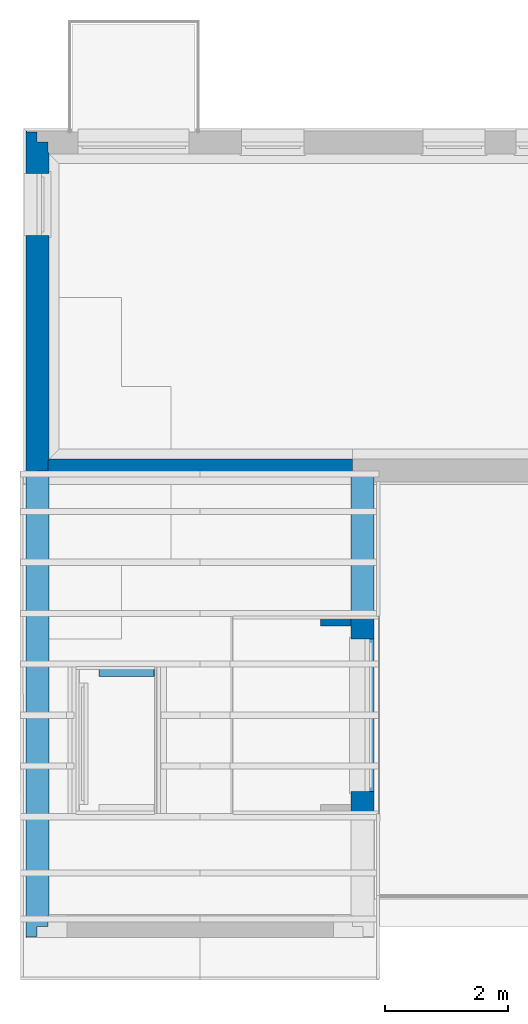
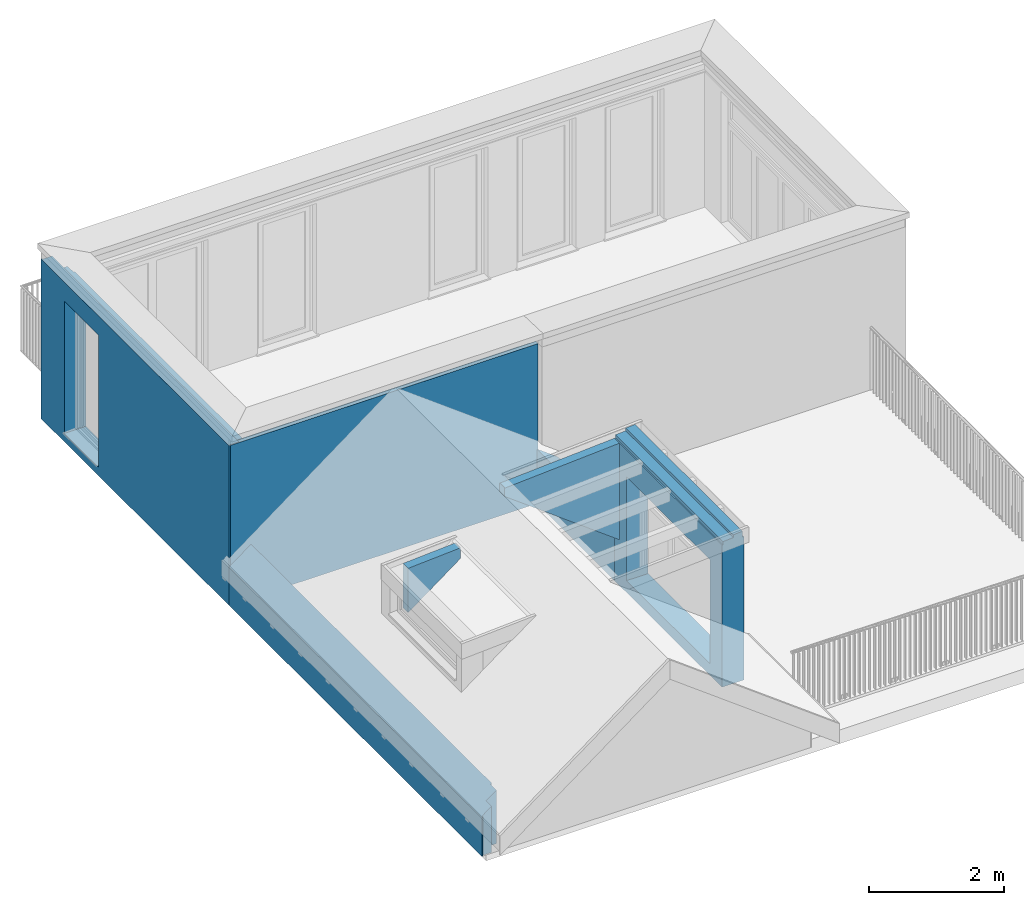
# One storey, part 8 of 15: 7 walls.
"""IFC4 building model written with IfcOpenShell, lengths in metres."""

from ifc_helpers import new_model, entity, si_unit, converted_unit, derived_unit, direction, frame, origin_with_axes, place, context, subcontext, project, spatial, triangles, material, constituent, constituent_set, type_object, element, save


model = new_model("IFC4")

# Units and contexts
model_context = context("Model", 3, precision=1e-05, world=origin_with_axes(), true_north=direction((-0.526213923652, 0.850352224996)))
body_context = subcontext(model_context, "Body", "Model", "MODEL_VIEW")
ifc_project = project(units=[si_unit("LENGTHUNIT", "METRE"), si_unit("AREAUNIT", "SQUARE_METRE"), si_unit("VOLUMEUNIT", "CUBIC_METRE"), converted_unit("PLANEANGLEUNIT", "DEGREE", entity("IfcPlaneAngleMeasure", 0.0174532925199), si_unit("PLANEANGLEUNIT", "RADIAN"), dimensions=[0, 0, 0, 0, 0, 0, 0]), si_unit("SOLIDANGLEUNIT", "STERADIAN"), converted_unit("TIMEUNIT", "Year", entity("IfcTimeMeasure", 31556926.0), si_unit("TIMEUNIT", "SECOND"), dimensions=[0, 0, 1, 0, 0, 0, 0]), si_unit("MASSUNIT", "GRAM", prefix="KILO"), si_unit("THERMODYNAMICTEMPERATUREUNIT", "DEGREE_CELSIUS"), si_unit("LUMINOUSINTENSITYUNIT", "LUMEN"), si_unit("ENERGYUNIT", "JOULE", prefix="MEGA"), derived_unit("THERMALCONDUCTANCEUNIT", [(si_unit("POWERUNIT", "WATT"), 1), (si_unit("LENGTHUNIT", "METRE"), -1), (si_unit("THERMODYNAMICTEMPERATUREUNIT", "KELVIN"), -1)]), derived_unit("SPECIFICHEATCAPACITYUNIT", [(si_unit("ENERGYUNIT", "JOULE"), 1), (si_unit("MASSUNIT", "GRAM", prefix="KILO"), -1), (si_unit("THERMODYNAMICTEMPERATUREUNIT", "KELVIN"), -1)]), derived_unit("MASSDENSITYUNIT", [(si_unit("MASSUNIT", "GRAM", prefix="KILO"), 1), (si_unit("VOLUMEUNIT", "CUBIC_METRE"), -1)])], contexts=[model_context])

# Site, building, storey, space
site_placement = place(None, origin_with_axes())
site = spatial("IfcSite", under=ifc_project, at=site_placement, Name="Gelände", CompositionType="ELEMENT")
building_placement = place(site_placement, origin_with_axes())
building = spatial("IfcBuilding", under=site, at=building_placement, Name="Haus vom Nikolaus", CompositionType="ELEMENT")
storey_placement = place(building_placement, frame((0.0, 0.0, 3.75), z_axis=(0.0, 0.0, 1.0), x_axis=(1.0, 0.0, 0.0)))
storey = spatial("IfcBuildingStorey", under=building, at=storey_placement, Name="1. OG", CompositionType="ELEMENT", Elevation=3.75)
space_placement = place(storey_placement, frame((-0.115002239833, 5.36483188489, 0.0), z_axis=(0.0, 0.0, 1.0), x_axis=(-1.0, 0.0, 0.0)))
space = spatial("IfcSpace", under=storey, at=space_placement, Name="OG", CompositionType="ELEMENT")

# Walls
ifc_material_1 = material(Name="Verputz, Zement")
ifc_constituent_1 = constituent(ifc_material_1, Name="Component 1")
ifc_material_2 = material(Name="Dämmung, weich Mineralwolle 2")
ifc_constituent_2 = constituent(ifc_material_2, Name="Component 2")
ifc_material_3 = material(Name="MW Kalksandstein")
ifc_constituent_3 = constituent(ifc_material_3, Name="Component 3")
ifc_constituent_4 = constituent(ifc_material_1, Name="Component 4")
ifc_constituent_set_1 = constituent_set(constituents=[ifc_constituent_1, ifc_constituent_2, ifc_constituent_3, ifc_constituent_4], Name="WA | 2 Schichtig KS")
wall_type_1 = type_object("IfcWallType", Name="WA | 2 Schichtig KS 375", PredefinedType="NOTDEFINED")
wall_1_placement = place(space_placement, frame((-0.3749998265, -2.29500077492, 0.0), z_axis=(0.0, 0.0, 1.0), x_axis=(0.0, -1.0, 0.0)))
element("IfcWall", 1, at=wall_1_placement, inside=space, type_object=wall_type_1, material=ifc_constituent_set_1, Name="Wand-008", context=body_context, shape_type="Tessellation", body=[
    triangles([(5.33500009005, 0.375, 0.0), (-0.264999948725, 0.375, 0.0), (3.63000009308, 0.375, 0.15), (4.64000009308, 0.375, 2.55), (5.33500009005, 0.375, 2.90000000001), (-0.264999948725, 0.375, 2.90000000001), (3.63000009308, 0.375, 2.55), (4.64000009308, 0.375, 0.15), (-0.264999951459, 0.355, 0.0), (-0.264999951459, 0.355, 2.90000000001), (5.33500008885, 0.355, 2.90000000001), (5.33500008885, 0.355, 0.0), (3.63000009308, 0.355, 0.15), (4.64000009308, 0.355, 0.15), (4.64000009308, 0.355, 2.55), (3.63000009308, 0.355, 2.55)], [[1, 2, 3], [1, 4, 5], [6, 5, 7], [7, 2, 6], [4, 1, 8], [3, 8, 1], [7, 5, 4], [2, 7, 3], [9, 6, 2], [9, 10, 6], [11, 6, 10], [11, 5, 6], [5, 12, 1], [5, 11, 12], [12, 2, 1], [2, 12, 9], [8, 13, 14], [8, 3, 13], [4, 14, 15], [4, 8, 14], [7, 15, 16], [7, 4, 15], [3, 16, 13], [3, 7, 16], [11, 10, 16], [9, 12, 13], [16, 9, 13], [9, 16, 10], [15, 12, 11], [16, 15, 11], [14, 13, 12], [15, 14, 12]], closed=True),
    triangles([(5.31500008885, 0.355, 0.0), (-0.244999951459, 0.355, 0.0), (3.63000009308, 0.355, 0.15), (4.64000009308, 0.355, 2.55), (5.31500008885, 0.355, 2.90000000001), (-0.244999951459, 0.355, 2.90000000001), (3.63000009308, 0.355, 2.55), (4.64000009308, 0.355, 0.15), (-0.244999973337, 0.195, 0.0), (-0.244999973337, 0.195, 2.90000000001), (5.31500007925, 0.195, 2.90000000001), (5.31500007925, 0.195, 0.0), (3.63000009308, 0.195, 0.15), (4.64000009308, 0.195, 0.15), (4.64000009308, 0.195, 2.55), (3.63000009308, 0.195, 2.55)], [[1, 2, 3], [1, 4, 5], [6, 5, 7], [7, 2, 6], [4, 1, 8], [3, 8, 1], [7, 5, 4], [2, 7, 3], [9, 6, 2], [9, 10, 6], [11, 6, 10], [11, 5, 6], [5, 12, 1], [5, 11, 12], [12, 2, 1], [2, 12, 9], [8, 13, 14], [8, 3, 13], [4, 14, 15], [4, 8, 14], [7, 15, 16], [7, 4, 15], [3, 16, 13], [3, 7, 16], [11, 10, 16], [9, 12, 13], [16, 9, 13], [9, 16, 10], [15, 12, 11], [16, 15, 11], [14, 13, 12], [15, 14, 12]], closed=True),
    triangles([(-0.195000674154, 0.195, 2.75), (5.1549993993, 0.195, 2.75), (3.63000009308, 0.195, 2.55), (-0.194999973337, 0.195, 0.0), (5.15500007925, 0.195, 0.0), (3.63000009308, 0.195, 0.15), (4.64000009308, 0.195, 2.55), (4.64000009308, 0.195, 0.15), (5.15500006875, 0.02, 0.0), (5.1549993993, 0.02, 2.75), (-0.194999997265, 0.02, 0.0), (-0.195000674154, 0.02, 2.75), (3.63000009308, 0.02, 0.15), (4.64000009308, 0.02, 0.15), (4.64000009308, 0.02, 2.55), (3.63000009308, 0.02, 2.55)], [[1, 2, 3], [3, 4, 1], [5, 4, 6], [5, 7, 2], [8, 5, 6], [7, 5, 8], [3, 2, 7], [4, 3, 6], [2, 9, 5], [9, 2, 10], [4, 9, 11], [4, 5, 9], [11, 1, 4], [11, 12, 1], [1, 10, 2], [1, 12, 10], [8, 13, 14], [8, 6, 13], [7, 14, 15], [7, 8, 14], [7, 16, 3], [16, 7, 15], [6, 16, 13], [6, 3, 16], [10, 12, 16], [11, 9, 13], [16, 11, 13], [11, 16, 12], [15, 9, 10], [16, 15, 10], [14, 13, 9], [15, 14, 9]], closed=True),
    triangles([(3.63000009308, 0.02, 2.55), (4.97999947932, 0.02, 2.59999998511), (4.64000009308, 0.02, 2.55), (-0.0200005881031, 0.02, 2.59999998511), (3.63000009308, 0.02, 0.15), (-0.0199999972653, 0.02, 0.0), (4.98000006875, 0.02, 0.0), (4.64000009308, 0.02, 0.15), (4.98000006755, 0.0, 0.0), (4.97999947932, 0.0, 2.59999998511), (-0.02, 0.0, 0.0), (-0.0200005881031, 0.0, 2.59999998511), (3.63000009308, 0.0, 0.15), (4.64000009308, 0.0, 0.15), (4.64000009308, 0.0, 2.55), (3.63000009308, 0.0, 2.55)], [[1, 2, 3], [4, 5, 6], [7, 6, 5], [8, 3, 2], [8, 7, 5], [7, 8, 2], [4, 2, 1], [4, 1, 5], [2, 9, 7], [9, 2, 10], [6, 9, 11], [6, 7, 9], [11, 4, 6], [11, 12, 4], [4, 10, 2], [4, 12, 10], [8, 13, 14], [8, 5, 13], [3, 14, 15], [3, 8, 14], [1, 15, 16], [1, 3, 15], [5, 16, 13], [5, 1, 16], [10, 12, 16], [14, 10, 15], [11, 9, 13], [13, 12, 11], [13, 16, 12], [16, 15, 10], [14, 13, 9], [10, 14, 9]], closed=True),
    triangles([(-0.02, 0.0, 2.75), (4.97999947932, 0.0, 2.64999998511), (4.98000006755, 0.0, 2.75), (-0.0200005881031, 0.0, 2.64999998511), (4.97999947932, 0.02, 2.64999998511), (-0.0200005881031, 0.02, 2.64999998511), (4.98000006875, 0.02, 2.75), (-0.0199999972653, 0.02, 2.75)], [[1, 2, 3], [2, 1, 4], [4, 5, 2], [4, 6, 5], [3, 5, 7], [5, 3, 2], [8, 3, 7], [3, 8, 1], [1, 6, 4], [1, 8, 6], [8, 5, 6], [8, 7, 5]], closed=True),
])
ifc_constituent_5 = constituent(ifc_material_1, Name="Component 1")
ifc_constituent_6 = constituent(ifc_material_3, Name="Component 2")
ifc_constituent_7 = constituent(ifc_material_2, Name="Component 3")
ifc_constituent_8 = constituent(ifc_material_1, Name="Component 4")
ifc_constituent_set_2 = constituent_set(constituents=[ifc_constituent_5, ifc_constituent_6, ifc_constituent_7, ifc_constituent_8], Name="WA | 2 Schichtig KS")
wall_2_placement = place(space_placement, frame((-5.28538429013, 3.46714901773, 0.0), z_axis=(0.0, 0.0, 1.0), x_axis=(2.86144443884e-10, -1.0, 0.0)))
element("IfcWall", 2, at=wall_2_placement, inside=space, type_object=wall_type_1, material=ifc_constituent_set_2, Name="Wand-012", context=body_context, shape_type="Tessellation", body=[
    triangles([(0.35851869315, -9.34946342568e-10, 2.09796168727), (0.35851869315, -9.34946342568e-10, 0.211961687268), (-2.7046910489e-08, -8.05472666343e-09, 1.14763102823), (2.84151869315, -1.64544378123e-09, 2.09796168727), (3.19999997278, -9.15662212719e-10, 2.58057629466), (3.19999997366, -9.15662212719e-10, 2.09796168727), (2.84151869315, -1.64544378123e-09, 0.211961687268), (3.19999997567, -9.15662212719e-10, 0.0), (1.07304387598e-10, -8.05472666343e-09, 0.0), (-2.73609883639e-08, -8.32358182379e-10, 2.58057629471), (3.19999997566, -0.0200000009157, 0.0), (1.0158140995e-10, -0.0199999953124, 0.0), (-2.70526334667e-08, -0.0199999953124, 1.14763102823), (-2.73700015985e-08, -0.0199999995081, 2.58186262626), (3.19999997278, -0.0200000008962, 2.58186262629), (3.19999997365, -0.0200000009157, 2.09796168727), (0.358518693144, -0.0200000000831, 0.211961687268), (2.84151869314, -0.0200000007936, 0.211961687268), (2.84151869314, -0.0200000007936, 2.09796168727), (0.358518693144, -0.0200000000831, 2.09796168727)], [[1, 2, 3], [4, 5, 6], [7, 4, 6], [2, 8, 9], [3, 2, 9], [7, 6, 8], [2, 7, 8], [1, 5, 4], [1, 3, 10], [5, 1, 10], [11, 9, 8], [11, 12, 9], [12, 3, 9], [12, 13, 3], [13, 10, 3], [13, 14, 10], [10, 15, 5], [10, 14, 15], [5, 16, 6], [16, 5, 15], [8, 16, 11], [8, 6, 16], [7, 17, 18], [7, 2, 17], [4, 18, 19], [4, 7, 18], [4, 20, 1], [20, 4, 19], [2, 20, 17], [2, 1, 20], [17, 13, 12], [20, 15, 14], [17, 20, 13], [17, 12, 11], [18, 16, 19], [13, 20, 14], [19, 16, 15], [20, 19, 15], [18, 17, 11], [16, 18, 11]], closed=True),
    triangles([(0.358518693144, -0.0199999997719, 2.09796168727), (0.358518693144, -0.0199999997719, 0.211961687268), (-2.70526334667e-08, -0.0199999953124, 1.14763102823), (2.84151869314, -0.0200000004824, 2.09796168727), (3.19999997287, -0.0200000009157, 2.63697626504), (3.19999997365, -0.0200000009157, 2.09796168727), (2.84151869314, -0.0200000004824, 0.211961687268), (3.19999997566, -0.0200000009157, 0.0), (1.0158140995e-10, -0.0199999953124, 0.0), (-2.72598663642e-08, -0.0199999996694, 2.63697626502), (0.0, -0.194999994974, 0.0), (3.19999997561, -0.195000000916, 0.0), (-2.7102708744e-08, -0.194999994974, 1.14763102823), (-2.73084057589e-08, -0.194999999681, 2.64823166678), (3.19999997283, -0.195000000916, 2.6482316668), (3.1999999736, -0.195000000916, 2.09796168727), (0.358518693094, -0.195000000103, 0.211961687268), (2.84151869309, -0.195000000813, 0.211961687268), (2.84151869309, -0.195000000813, 2.09796168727), (0.358518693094, -0.195000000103, 2.09796168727)], [[1, 2, 3], [4, 5, 6], [7, 4, 6], [2, 8, 9], [3, 2, 9], [7, 6, 8], [2, 7, 8], [1, 5, 4], [1, 3, 10], [5, 1, 10], [11, 8, 12], [8, 11, 9], [11, 3, 9], [11, 13, 3], [13, 10, 3], [13, 14, 10], [14, 5, 10], [5, 14, 15], [5, 16, 6], [16, 5, 15], [8, 16, 12], [8, 6, 16], [7, 17, 18], [7, 2, 17], [4, 18, 19], [4, 7, 18], [1, 19, 20], [1, 4, 19], [2, 20, 17], [2, 1, 20], [17, 13, 11], [20, 15, 14], [17, 20, 13], [17, 11, 12], [18, 16, 19], [13, 20, 14], [19, 16, 15], [20, 19, 15], [18, 17, 12], [16, 18, 12]], closed=True),
    triangles([(2.84151869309, -0.195000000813, 0.211961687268), (2.84151869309, -0.195000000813, 2.09796168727), (3.1999999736, -0.195000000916, 2.09796168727), (3.19999997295, -0.195000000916, 2.69833497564), (0.358518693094, -0.195000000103, 2.09796168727), (0.358518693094, -0.195000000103, 0.211961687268), (-2.7102708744e-08, -0.194999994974, 1.14763102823), (3.19999997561, -0.195000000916, 0.0), (0.0, -0.194999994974, 0.0), (-2.7141298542e-08, -0.194999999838, 2.69833497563), (-2.71844007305e-08, -0.354999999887, 2.70862562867), (3.19999997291, -0.355000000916, 2.70862562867), (3.19999997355, -0.355000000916, 2.09796168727), (3.19999997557, -0.355000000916, 0.0), (0.0, -0.354999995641, 0.0), (-2.7148491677e-08, -0.354999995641, 1.14763102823), (0.358518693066, -0.295000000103, 0.211961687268), (2.84151869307, -0.295000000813, 0.211961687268), (2.84151869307, -0.295000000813, 2.09796168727), (0.358518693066, -0.295000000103, 2.09796168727), (0.358518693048, -0.355000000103, 2.09796168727), (0.358518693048, -0.355000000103, 0.211961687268), (2.84151869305, -0.355000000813, 0.211961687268), (2.84151869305, -0.355000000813, 2.09796168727)], [[1, 2, 3], [2, 4, 3], [5, 6, 7], [6, 8, 9], [7, 6, 9], [1, 3, 8], [6, 1, 8], [5, 4, 2], [5, 7, 10], [4, 5, 10], [11, 4, 10], [11, 12, 4], [4, 13, 3], [4, 12, 13], [3, 14, 8], [3, 13, 14], [15, 8, 14], [15, 9, 8], [16, 9, 15], [16, 7, 9], [10, 16, 11], [16, 10, 7], [1, 17, 18], [1, 6, 17], [2, 18, 19], [2, 1, 18], [2, 20, 5], [20, 2, 19], [6, 20, 17], [6, 5, 20], [21, 12, 11], [22, 14, 23], [22, 21, 16], [23, 13, 24], [21, 11, 16], [24, 13, 12], [21, 24, 12], [13, 23, 14], [22, 16, 15], [14, 22, 15], [23, 17, 22], [17, 23, 18], [23, 19, 18], [23, 24, 19], [24, 20, 19], [24, 21, 20], [21, 17, 20], [21, 22, 17]], closed=True),
    triangles([(0.358518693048, -0.354999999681, 2.09796168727), (0.358518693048, -0.354999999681, 0.211961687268), (-2.7148491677e-08, -0.354999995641, 1.14763102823), (2.84151869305, -0.355000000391, 2.09796168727), (3.19999997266, -0.355000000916, 2.60340868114), (3.19999997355, -0.355000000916, 2.09796168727), (2.84151869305, -0.355000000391, 0.211961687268), (3.19999997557, -0.355000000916, 0.0), (0.0, -0.354999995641, 0.0), (-2.75209697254e-08, -0.354999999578, 2.60340868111), (0.0, -0.375, 0.0), (3.19999997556, -0.375000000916, 0.0), (-2.71542146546e-08, -0.375, 1.14763102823), (-2.752998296e-08, -0.375, 2.60469501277), (3.19999997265, -0.375000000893, 2.60469501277), (3.19999997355, -0.375000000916, 2.09796168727), (2.84151869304, -0.37500000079, 0.211961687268), (0.358518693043, -0.37500000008, 0.211961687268), (2.84151869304, -0.37500000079, 2.09796168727), (0.358518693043, -0.37500000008, 2.09796168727)], [[1, 2, 3], [4, 5, 6], [7, 4, 6], [2, 8, 9], [3, 2, 9], [7, 6, 8], [2, 7, 8], [1, 5, 4], [1, 3, 10], [5, 1, 10], [11, 8, 12], [8, 11, 9], [11, 3, 9], [11, 13, 3], [13, 10, 3], [13, 14, 10], [10, 15, 5], [10, 14, 15], [5, 16, 6], [16, 5, 15], [8, 16, 12], [8, 6, 16], [2, 17, 7], [17, 2, 18], [4, 17, 19], [4, 7, 17], [1, 19, 20], [1, 4, 19], [2, 20, 18], [2, 1, 20], [18, 13, 11], [20, 15, 14], [18, 20, 13], [18, 11, 12], [17, 16, 19], [13, 20, 14], [19, 16, 15], [20, 19, 15], [17, 18, 12], [16, 17, 12]], closed=True),
])
ifc_constituent_9 = constituent(ifc_material_1, Name="Component 1")
ifc_constituent_10 = constituent(ifc_material_2, Name="Component 2")
ifc_constituent_11 = constituent(ifc_material_3, Name="Component 3")
ifc_constituent_12 = constituent(ifc_material_1, Name="Component 4")
ifc_constituent_set_3 = constituent_set(constituents=[ifc_constituent_9, ifc_constituent_10, ifc_constituent_11, ifc_constituent_12], Name="WA | 2 Schichtig KS")
wall_3_placement = place(space_placement, frame((-0.374999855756, 5.10499976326, -7.13958347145e-05), z_axis=(0.0, 0.0, 1.0), x_axis=(5.17545230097e-05, -0.999999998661, 0.0)))
element("IfcWall", 3, at=wall_3_placement, inside=space, type_object=wall_type_1, material=ifc_constituent_set_3, Name="Wand-012", context=body_context, shape_type="Tessellation", body=[
    triangles([(7.13502006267, 0.355, 0.0), (-0.374980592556, 0.375, 7.45491224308e-10), (7.13502006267, 0.375, 0.0), (-0.374981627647, 0.355, 7.14081238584e-10), (-0.374980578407, 0.374999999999, 7.13958347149e-05), (7.13502006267, 0.375, 0.703986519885), (-0.374980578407, 0.375, 0.704277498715), (7.13502006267, 0.355, 0.718959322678), (-0.374981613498, 0.354999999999, 7.13958347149e-05), (-0.374981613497, 0.355, 0.719250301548)], [[1, 2, 3], [1, 4, 2], [3, 5, 6], [6, 5, 7], [5, 3, 2], [1, 6, 8], [6, 1, 3], [9, 1, 8], [9, 8, 10], [1, 9, 4], [9, 2, 4], [2, 9, 5], [9, 7, 5], [9, 10, 7], [8, 7, 10], [8, 6, 7]], closed=True),
    triangles([(7.13502006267, 0.355, 0.718959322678), (-0.35498162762, 0.355, 7.13971194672e-05), (-0.354981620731, 0.355, 0.719249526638), (7.13502006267, 0.355, 0.0), (-0.35498162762, 0.355, 0.0), (-0.354989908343, 0.195, 0.0), (-0.354989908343, 0.195, 7.13971195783e-05), (-0.354989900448, 0.195, 0.839031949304), (7.13502006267, 0.195, 0.838741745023), (7.13502006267, 0.195, 0.0)], [[1, 2, 3], [4, 2, 1], [2, 4, 5], [6, 2, 5], [6, 7, 2], [7, 3, 2], [7, 8, 3], [9, 3, 8], [9, 1, 3], [10, 1, 9], [1, 10, 4], [10, 5, 4], [10, 6, 5], [10, 7, 6], [9, 7, 10], [7, 9, 8]], closed=True),
    triangles([(-0.194989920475, 0.194625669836, 7.13958347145e-05), (-0.194989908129, 0.195, 0.0), (-0.194989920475, 0.194625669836, 0.0), (-0.194998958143, 0.0199999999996, 7.13958347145e-05), (-0.194989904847, 0.195, 0.839025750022), (-0.194989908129, 0.195, 7.13971195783e-05), (-0.194998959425, 0.0199999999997, 0.970037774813), (4.48001001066, 0.194383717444, 7.13958347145e-05), (4.48001001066, 0.194383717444, 0.0), (4.48000098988, 0.0200000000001, 7.13958347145e-05), (7.13502006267, 0.02, 0.969753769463), (7.13502006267, 0.02, 0.0), (4.48000101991, 0.02, 0.0), (7.13502006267, 0.195, 0.838741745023), (7.13502006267, 0.195, 0.0)], [[1, 2, 3], [4, 5, 1], [2, 1, 6], [5, 4, 7], [5, 6, 1], [8, 3, 9], [8, 1, 3], [1, 10, 4], [1, 8, 10], [4, 10, 7], [11, 10, 12], [12, 10, 13], [7, 10, 11], [5, 11, 14], [11, 5, 7], [14, 6, 5], [6, 15, 2], [6, 14, 15], [15, 12, 9], [2, 15, 9], [2, 9, 3], [13, 9, 12], [8, 13, 10], [8, 9, 13], [14, 12, 15], [14, 11, 12]], closed=True),
    triangles([(-0.0199989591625, 0.0199999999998, 0.970030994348), (-0.0200000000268, 0.0, 7.13958347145e-05), (-0.0199999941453, 0.0, 0.985003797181), (-0.0199989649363, 0.02, 7.13958347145e-05), (4.47999995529, 0.0, 7.13958347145e-05), (4.48000098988, 0.0200000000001, 7.13958347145e-05), (4.47999998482, 0.0, 0.0), (6.97999995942, 0.0, 7.13958347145e-05), (6.97999995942, 0.0, 0.0), (7.13502006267, 0.0, 0.984726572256), (7.13502006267, 0.0, 7.13958347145e-05), (7.13502006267, 0.02, 0.969753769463), (7.13502006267, 0.02, 0.0), (4.48000101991, 0.02, 0.0), (6.98000097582, 0.0196388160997, 0.0), (7.13502006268, 0.0196307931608, 0.0), (6.98000097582, 0.0196388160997, 7.13958347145e-05), (7.13502006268, 0.0196307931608, 7.13958347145e-05)], [[1, 2, 3], [2, 1, 4], [4, 5, 2], [4, 6, 5], [2, 5, 3], [7, 8, 5], [8, 7, 9], [10, 8, 11], [10, 5, 8], [3, 5, 10], [1, 10, 12], [10, 1, 3], [13, 14, 6], [1, 12, 6], [1, 6, 4], [13, 6, 12], [6, 7, 5], [6, 14, 7], [15, 13, 16], [14, 13, 15], [15, 9, 7], [14, 15, 7], [17, 9, 15], [17, 8, 9], [18, 8, 17], [18, 11, 8], [16, 13, 18], [12, 11, 18], [12, 18, 13], [12, 10, 11], [15, 18, 17], [15, 16, 18]], closed=True),
])
ifc_constituent_13 = constituent(ifc_material_1, Name="Component 1")
ifc_constituent_14 = constituent(ifc_material_3, Name="Component 2")
ifc_constituent_15 = constituent(ifc_material_2, Name="Component 3")
ifc_constituent_16 = constituent(ifc_material_1, Name="Component 4")
ifc_constituent_set_4 = constituent_set(constituents=[ifc_constituent_13, ifc_constituent_14, ifc_constituent_15, ifc_constituent_16], Name="WA | 2 Schichtig KS")
wall_4_placement = place(space_placement, frame((-5.28538428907, 0.267149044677, 0.0), z_axis=(0.0, 0.0, 1.0), x_axis=(0.0, -1.0, 0.0)))
element("IfcWall", 4, at=wall_4_placement, inside=space, type_object=wall_type_1, material=ifc_constituent_set_4, Name="Wand-012", context=body_context, shape_type="Tessellation", body=[
    triangles([(2.61684629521e-09, -1.06460085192e-09, 0.0), (1.6857377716e-09, -0.0200000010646, 0.970264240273), (1.67136882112e-09, -1.06460085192e-09, 0.985237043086), (2.61684629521e-09, -0.0200000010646, 0.0), (2.29714914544, -0.02, 0.97026424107), (2.29714914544, -0.02, 0.0), (2.29714914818, 0.0, 0.985237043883), (2.29714914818, 0.0, 0.0)], [[1, 2, 3], [2, 1, 4], [5, 4, 6], [4, 5, 2], [5, 3, 2], [5, 7, 3], [7, 1, 3], [7, 8, 1], [6, 1, 8], [1, 6, 4], [8, 5, 6], [8, 7, 5]], closed=True),
    triangles([(2.61684629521e-09, -0.0200000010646, 0.0), (1.81146209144e-09, -0.195000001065, 0.839252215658), (1.6857377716e-09, -0.0200000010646, 0.970264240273), (2.61684540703e-09, -0.195000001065, 0.0), (2.31714912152, -0.195, 0.839252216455), (2.31714912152, -0.195, 0.0), (2.31714914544, -0.02, 0.97026424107), (2.31714914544, -0.02, 0.0)], [[1, 2, 3], [2, 1, 4], [5, 4, 6], [4, 5, 2], [5, 3, 2], [5, 7, 3], [7, 1, 3], [7, 8, 1], [6, 1, 8], [1, 6, 4], [8, 5, 6], [8, 7, 5]], closed=True),
    triangles([(2.61684540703e-09, -0.195000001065, 0.0), (1.92641014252e-09, -0.355000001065, 0.719469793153), (1.81146209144e-09, -0.195000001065, 0.839252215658), (2.61684540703e-09, -0.355000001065, 0.0), (2.31714909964, -0.355, 0.71946979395), (2.31714909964, -0.355, 0.0), (2.31714912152, -0.195, 0.839252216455), (2.31714912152, -0.195, 0.0)], [[1, 2, 3], [2, 1, 4], [5, 4, 6], [4, 5, 2], [5, 3, 2], [5, 7, 3], [7, 1, 3], [7, 8, 1], [6, 1, 8], [1, 6, 4], [8, 5, 6], [8, 7, 5]], closed=True),
    triangles([(2.61684540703e-09, -0.355000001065, 0.0), (1.94077909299e-09, -0.375000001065, 0.704496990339), (1.92641014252e-09, -0.355000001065, 0.719469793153), (2.61684540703e-09, -0.375000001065, 0.0), (2.2971490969, -0.375, 0.704496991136), (2.2971490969, -0.375, 0.0), (2.29714909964, -0.355, 0.71946979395), (2.29714909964, -0.355, 0.0)], [[1, 2, 3], [2, 1, 4], [5, 4, 6], [4, 5, 2], [5, 3, 2], [5, 7, 3], [7, 1, 3], [7, 8, 1], [6, 1, 8], [1, 6, 4], [8, 5, 6], [8, 7, 5]], closed=True),
])
ifc_material_4 = material(Name="Gipskarton")
ifc_constituent_17 = constituent(ifc_material_4, Name="Component 1")
ifc_constituent_18 = constituent(ifc_material_4, Name="Component 2")
ifc_material_5 = material(Name="Dämmung, weich Glaswolle")
ifc_constituent_19 = constituent(ifc_material_5, Name="Component 3")
ifc_constituent_20 = constituent(ifc_material_4, Name="Component 4")
ifc_constituent_21 = constituent(ifc_material_4, Name="Component 5")
ifc_constituent_set_5 = constituent_set(constituents=[ifc_constituent_17, ifc_constituent_18, ifc_constituent_19, ifc_constituent_20, ifc_constituent_21], Name="WI |\xa0GK 15 2-lagig")
wall_type_2 = type_object("IfcWallType", Name="WI |\xa0GK 15 2-lagig 150", PredefinedType="NOTDEFINED")
wall_5_placement = place(space_placement, frame((-3.31280798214, 0.267149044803, 0.0), z_axis=(0.0, 0.0, 1.0), x_axis=(-1.0, 0.0, 0.0)))
element("IfcWall", 5, at=wall_5_placement, inside=space, type_object=wall_type_2, material=ifc_constituent_set_5, Name="Wand-012", context=body_context, shape_type="Tessellation", body=[
    triangles([(1.97257630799, -0.0125000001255, 2.58057629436), (1.97257630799, 1.70666236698e-09, 0.829088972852), (1.97257630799, -2.67579736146e-10, 2.58057629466), (1.97257630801, -0.0125000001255, 0.829088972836), (0.0, -0.0125, 2.305838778), (0.0, 0.0, 2.305838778), (0.0101849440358, 0.0, 2.45436199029), (0.0, 0.0, 2.46198684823), (0.010184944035, -0.0125000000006, 2.45436199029), (0.0, -0.0125, 2.46198684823)], [[1, 2, 3], [2, 1, 4], [5, 2, 4], [2, 5, 6], [7, 6, 8], [3, 6, 7], [6, 3, 2], [7, 1, 3], [1, 7, 9], [1, 9, 5], [1, 5, 4], [10, 5, 9], [10, 6, 5], [10, 8, 6], [8, 9, 7], [8, 10, 9]], closed=True),
    triangles([(1.97257630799, -0.0250000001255, 2.58057629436), (1.97257630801, -0.0125000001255, 0.829088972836), (1.97257630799, -0.0125000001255, 2.58057629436), (1.97257630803, -0.0250000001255, 0.829088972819), (0.0, -0.025, 2.305838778), (0.0, -0.0125, 2.305838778), (0.010184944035, -0.0125000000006, 2.45436199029), (0.0, -0.0125, 2.46198684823), (0.0101849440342, -0.0250000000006, 2.45436199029), (0.0, -0.025, 2.46198684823)], [[1, 2, 3], [2, 1, 4], [5, 2, 4], [2, 5, 6], [7, 6, 8], [3, 6, 7], [6, 3, 2], [3, 9, 1], [3, 7, 9], [1, 9, 5], [1, 5, 4], [10, 5, 9], [10, 6, 5], [10, 8, 6], [10, 7, 8], [7, 10, 9]], closed=True),
    triangles([(1.97257630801, -0.125000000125, 2.58057629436), (1.97257630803, -0.0250000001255, 0.829088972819), (1.97257630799, -0.0250000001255, 2.58057629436), (1.9725763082, -0.125000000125, 0.829088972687), (0.0, -0.125, 2.305838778), (0.0, -0.025, 2.305838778), (0.0101849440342, -0.0250000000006, 2.45436199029), (0.0, -0.025, 2.46198684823), (0.0101849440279, -0.125000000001, 2.45436199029), (0.0, -0.125, 2.46198684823)], [[1, 2, 3], [2, 1, 4], [5, 2, 4], [2, 5, 6], [7, 6, 8], [3, 6, 7], [6, 3, 2], [3, 9, 1], [3, 7, 9], [1, 9, 5], [1, 5, 4], [10, 5, 9], [10, 6, 5], [10, 8, 6], [10, 7, 8], [7, 10, 9]], closed=True),
    triangles([(1.97257630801, -0.137500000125, 2.58057629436), (1.9725763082, -0.125000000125, 0.829088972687), (1.97257630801, -0.125000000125, 2.58057629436), (1.97257630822, -0.137500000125, 0.82908897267), (0.0, -0.1375, 2.305838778), (0.0, -0.125, 2.305838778), (0.0101849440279, -0.125000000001, 2.45436199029), (0.0, -0.125, 2.46198684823), (0.0101849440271, -0.137500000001, 2.45436199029), (0.0, -0.1375, 2.46198684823)], [[1, 2, 3], [2, 1, 4], [5, 2, 4], [2, 5, 6], [7, 6, 8], [3, 6, 7], [6, 3, 2], [3, 9, 1], [3, 7, 9], [1, 9, 5], [1, 5, 4], [10, 5, 9], [10, 6, 5], [10, 8, 6], [10, 7, 8], [7, 10, 9]], closed=True),
    triangles([(1.97257630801, -0.150000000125, 2.58057629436), (1.97257630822, -0.137500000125, 0.82908897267), (1.97257630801, -0.137500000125, 2.58057629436), (1.97257630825, -0.150000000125, 0.829088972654), (0.0, -0.15, 2.305838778), (0.0, -0.1375, 2.305838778), (0.0101849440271, -0.137500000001, 2.45436199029), (0.0, -0.1375, 2.46198684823), (0.0101849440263, -0.150000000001, 2.45436199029), (0.0, -0.15, 2.46198684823)], [[1, 2, 3], [2, 1, 4], [5, 2, 4], [2, 5, 6], [7, 6, 8], [3, 6, 7], [6, 3, 2], [3, 9, 1], [3, 7, 9], [1, 9, 5], [1, 5, 4], [10, 5, 9], [10, 6, 5], [10, 8, 6], [10, 7, 8], [7, 10, 9]], closed=True),
])
ifc_constituent_22 = constituent(ifc_material_4, Name="Component 1")
ifc_constituent_23 = constituent(ifc_material_4, Name="Component 2")
ifc_constituent_24 = constituent(ifc_material_5, Name="Component 3")
ifc_constituent_25 = constituent(ifc_material_4, Name="Component 4")
ifc_constituent_26 = constituent(ifc_material_4, Name="Component 5")
ifc_constituent_set_6 = constituent_set(constituents=[ifc_constituent_22, ifc_constituent_23, ifc_constituent_24, ifc_constituent_25, ifc_constituent_26], Name="WI |\xa0GK 15 2-lagig")
wall_6_placement = place(space_placement, frame((-2.08843666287, 1.08714906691, 0.0), z_axis=(0.0, 0.0, 1.0), x_axis=(1.0, 0.0, 0.0)))
element("IfcWall", 6, at=wall_6_placement, inside=space, type_object=wall_type_2, material=ifc_constituent_set_6, Name="Wand-012", context=body_context, shape_type="Tessellation", body=[
    triangles([(0.0, 0.1375, 2.30515473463), (0.0, 0.15, 2.11147626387), (0.0, 0.1375, 2.11147626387), (0.0, 0.15, 2.30515473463), (0.902059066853, 0.137500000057, 1.43615863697), (0.902059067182, 0.150000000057, 1.43615863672), (0.90205906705, 0.137500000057, 2.24178723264), (0.00781815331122, 0.1375, 2.29930175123), (0.00781815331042, 0.15, 2.29930175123), (0.902059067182, 0.150000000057, 2.24178723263)], [[1, 2, 3], [1, 4, 2], [2, 5, 3], [2, 6, 5], [7, 8, 3], [7, 3, 5], [1, 3, 8], [8, 4, 1], [4, 8, 9], [9, 2, 4], [10, 2, 9], [2, 10, 6], [10, 5, 6], [10, 7, 5], [7, 9, 8], [7, 10, 9]], closed=True),
    triangles([(0.0, 0.125, 2.30515473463), (0.0, 0.1375, 2.11147626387), (0.0, 0.125, 2.11147626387), (0.0, 0.1375, 2.30515473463), (0.902059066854, 0.125000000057, 1.43615863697), (0.902059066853, 0.137500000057, 1.43615863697), (0.902059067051, 0.125000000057, 2.24178723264), (0.00781815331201, 0.125, 2.29930175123), (0.00781815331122, 0.1375, 2.29930175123), (0.90205906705, 0.137500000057, 2.24178723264)], [[1, 2, 3], [1, 4, 2], [2, 5, 3], [2, 6, 5], [7, 8, 3], [7, 3, 5], [1, 3, 8], [8, 4, 1], [4, 8, 9], [9, 2, 4], [10, 2, 9], [2, 10, 6], [10, 5, 6], [10, 7, 5], [7, 9, 8], [7, 10, 9]], closed=True),
    triangles([(0.0, 0.025, 2.30515473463), (0.0, 0.125, 2.11147626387), (0.0, 0.025, 2.11147626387), (0.0, 0.125, 2.30515473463), (0.902059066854, 0.125000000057, 1.43615863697), (0.90205906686, 0.0250000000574, 1.43615863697), (0.902059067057, 0.0250000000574, 2.24178723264), (0.00781815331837, 0.0250000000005, 2.29930175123), (0.00781815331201, 0.125, 2.29930175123), (0.902059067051, 0.125000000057, 2.24178723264)], [[1, 2, 3], [1, 4, 2], [5, 3, 2], [3, 5, 6], [7, 8, 3], [7, 3, 6], [1, 3, 8], [1, 9, 4], [1, 8, 9], [9, 2, 4], [10, 2, 9], [2, 10, 5], [10, 6, 5], [10, 7, 6], [7, 9, 8], [7, 10, 9]], closed=True),
    triangles([(0.0, 0.0125, 2.30515473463), (0.0, 0.025, 2.11147626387), (0.0, 0.0125, 2.11147626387), (0.0, 0.025, 2.30515473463), (0.902059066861, 0.0125000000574, 1.43615863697), (0.90205906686, 0.0250000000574, 1.43615863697), (0.902059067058, 0.0125000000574, 2.24178723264), (0.00781815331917, 0.0125000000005, 2.29930175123), (0.00781815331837, 0.0250000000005, 2.29930175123), (0.902059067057, 0.0250000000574, 2.24178723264)], [[1, 2, 3], [1, 4, 2], [2, 5, 3], [2, 6, 5], [7, 8, 3], [7, 3, 5], [1, 3, 8], [8, 4, 1], [4, 8, 9], [9, 2, 4], [10, 2, 9], [2, 10, 6], [10, 5, 6], [10, 7, 5], [7, 9, 8], [7, 10, 9]], closed=True),
    triangles([(0.0, 0.0, 2.30515473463), (0.0, 0.0125, 2.11147626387), (0.0, 0.0, 2.11147626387), (0.0, 0.0125, 2.30515473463), (0.902059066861, 0.0125000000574, 1.43615863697), (0.902059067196, 0.0, 1.43615863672), (0.9020590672, 0.0, 2.24178723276), (0.00781815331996, 1.12920339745e-10, 2.29930175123), (0.00781815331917, 0.0125000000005, 2.29930175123), (0.902059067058, 0.0125000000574, 2.24178723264)], [[1, 2, 3], [1, 4, 2], [5, 3, 2], [3, 5, 6], [7, 8, 3], [7, 3, 6], [1, 3, 8], [8, 4, 1], [4, 8, 9], [9, 2, 4], [10, 2, 9], [2, 10, 5], [7, 5, 10], [5, 7, 6], [10, 8, 7], [8, 10, 9]], closed=True),
])
ifc_constituent_27 = constituent(ifc_material_1, Name="Component 1")
ifc_constituent_28 = constituent(ifc_material_2, Name="Component 2")
ifc_constituent_29 = constituent(ifc_material_3, Name="Component 3")
ifc_constituent_30 = constituent(ifc_material_1, Name="Component 4")
ifc_constituent_set_7 = constituent_set(constituents=[ifc_constituent_27, ifc_constituent_28, ifc_constituent_29, ifc_constituent_30], Name="WA | 2 Schichtig KS Giebelwand")
wall_type_3 = type_object("IfcWallType", Name="WA | 2 Schichtig KS Giebelwand 265", PredefinedType="NOTDEFINED")
wall_7_placement = place(space_placement, frame((-5.30538428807, -2.29500010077, 0.0), z_axis=(0.0, 0.0, 1.0), x_axis=(1.0, -1.36734658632e-07, 0.0)))
element("IfcWall", 7, at=wall_7_placement, inside=space, type_object=wall_type_3, material=ifc_constituent_set_7, Name="Wand-015", context=body_context, shape_type="Tessellation", body=[
    triangles([(0.0, 0.245, 2.9), (5.28538442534, 0.265, 2.9), (0.0, 0.265, 2.9), (5.28538442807, 0.245, 2.9), (5.28538442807, 0.245, 0.0), (5.28538442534, 0.265, 0.0), (0.0, 0.265, 0.0), (0.0, 0.245, 0.0)], [[1, 2, 3], [2, 1, 4], [5, 2, 4], [5, 6, 2], [7, 2, 6], [7, 3, 2], [3, 8, 1], [3, 7, 8], [1, 5, 4], [1, 8, 5], [8, 6, 5], [8, 7, 6]], closed=True),
    triangles([(0.0, 0.195, 2.9), (5.12538442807, 0.245, 2.9), (0.0, 0.245, 2.9), (5.12538443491, 0.195, 2.9), (5.12538442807, 0.245, 0.0), (0.0, 0.245, 0.0), (0.0, 0.195, 0.0), (5.12538443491, 0.195, 0.0)], [[1, 2, 3], [1, 4, 2], [3, 5, 6], [3, 2, 5], [6, 1, 3], [6, 7, 1], [7, 4, 1], [7, 8, 4], [5, 4, 8], [5, 2, 4], [5, 7, 6], [7, 5, 8]], closed=True),
    triangles([(0.0, 0.02, 0.0), (4.95038445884, 0.02, 2.75), (0.0, 0.02, 2.75), (4.95038445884, 0.02, 0.0), (4.95038443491, 0.195000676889, 2.75), (0.0, 0.195, 2.75), (0.0, 0.195, 0.0), (4.95038443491, 0.195, 0.0)], [[1, 2, 3], [1, 4, 2], [5, 3, 2], [3, 5, 6], [7, 3, 6], [7, 1, 3], [1, 8, 4], [1, 7, 8], [8, 2, 4], [2, 8, 5], [7, 5, 8], [5, 7, 6]], closed=True),
    triangles([(0.0, 0.0, 0.0), (4.93038446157, 0.0, 2.59999998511), (0.0, 0.0, 2.59999998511), (4.93038446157, 0.0, 0.0), (0.0, 0.0199999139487, 2.59999998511), (4.93038445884, 0.0200005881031, 2.59999998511), (0.0, 0.02, 0.0), (4.93038445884, 0.02, 0.0)], [[1, 2, 3], [1, 4, 2], [2, 5, 3], [2, 6, 5], [1, 5, 7], [5, 1, 3], [1, 8, 4], [1, 7, 8], [8, 2, 4], [2, 8, 6], [7, 6, 8], [6, 7, 5]], closed=True),
    triangles([(0.0, 0.0, 2.75), (0.0, 0.0199999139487, 2.64999998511), (0.0, 0.0, 2.64999998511), (0.0, 0.02, 2.75), (4.93038446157, 0.0, 2.64999998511), (4.93038445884, 0.0200005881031, 2.64999998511), (4.93038446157, 0.0, 2.75), (4.93038445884, 0.02, 2.75)], [[1, 2, 3], [1, 4, 2], [2, 5, 3], [2, 6, 5], [7, 3, 5], [7, 1, 3], [8, 1, 7], [1, 8, 4], [4, 6, 2], [4, 8, 6], [8, 5, 6], [8, 7, 5]], closed=True),
])

save(model, "model.ifc")
